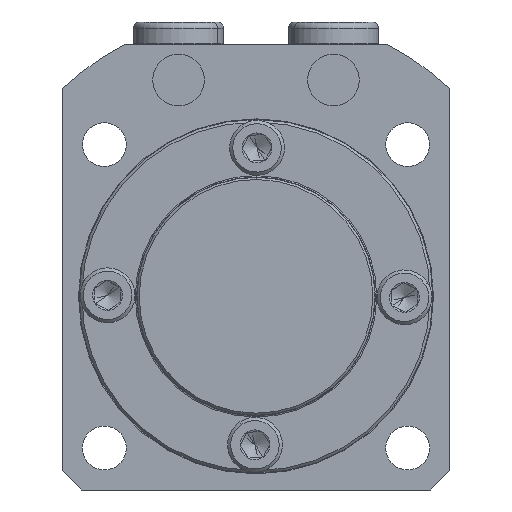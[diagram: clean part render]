
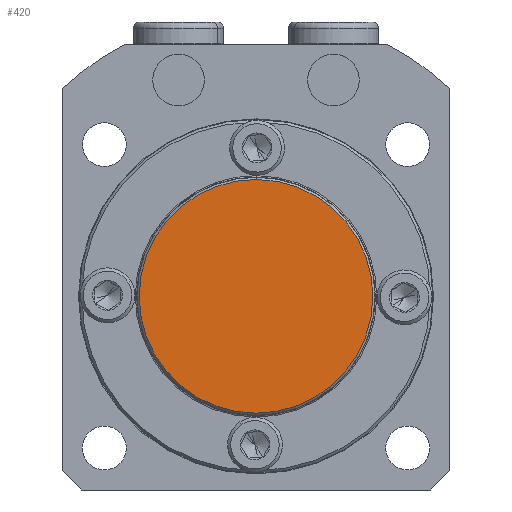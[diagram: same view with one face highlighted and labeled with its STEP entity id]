
A CAD part, front view. The second image highlights one B-rep face of the part: STEP entity #420.
In plain terms, the highlighted planar face has unit normal (0, -1, 0).
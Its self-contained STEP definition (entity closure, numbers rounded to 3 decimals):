
#97 = CIRCLE ( 'NONE', #102, 18.1 ) ;
#102 = AXIS2_PLACEMENT_3D ( 'NONE', #1037, #1038, #1039 ) ;
#127 = CIRCLE ( 'NONE', #131, 18.1 ) ;
#131 = AXIS2_PLACEMENT_3D ( 'NONE', #3993, #3994, #3995 ) ;
#420 = ADVANCED_FACE ( 'NONE', ( #2499 ), #2500, .T. ) ;
#1037 = CARTESIAN_POINT ( 'NONE',  ( 0., -10., 0. ) ) ;
#1038 = DIRECTION ( 'NONE',  ( 0., -1., 0. ) ) ;
#1039 = DIRECTION ( 'NONE',  ( 0., 0., -1. ) ) ;
#1121 = EDGE_CURVE ( 'NONE', #2058, #5191, #97, .T. ) ;
#1140 = EDGE_CURVE ( 'NONE', #5191, #2058, #127, .T. ) ;
#1667 = CARTESIAN_POINT ( 'NONE',  ( 0., -10., -18.1 ) ) ;
#2058 = VERTEX_POINT ( 'NONE', #4086 ) ;
#2337 = EDGE_LOOP ( 'NONE', ( #3168, #3169 ) ) ;
#2491 = CARTESIAN_POINT ( 'NONE',  ( 0., -10., 0. ) ) ;
#2499 = FACE_OUTER_BOUND ( 'NONE', #2337, .T. ) ;
#2500 = PLANE ( 'NONE',  #4756 ) ;
#2503 = DIRECTION ( 'NONE',  ( 0., -1., 0. ) ) ;
#2504 = DIRECTION ( 'NONE',  ( 0., 0., -1. ) ) ;
#3168 = ORIENTED_EDGE ( 'NONE', *, *, #1121, .T. ) ;
#3169 = ORIENTED_EDGE ( 'NONE', *, *, #1140, .T. ) ;
#3993 = CARTESIAN_POINT ( 'NONE',  ( 0., -10., 0. ) ) ;
#3994 = DIRECTION ( 'NONE',  ( 0., -1., 0. ) ) ;
#3995 = DIRECTION ( 'NONE',  ( 0., 0., -1. ) ) ;
#4086 = CARTESIAN_POINT ( 'NONE',  ( 0., -10., 18.1 ) ) ;
#4756 = AXIS2_PLACEMENT_3D ( 'NONE', #2491, #2503, #2504 ) ;
#5191 = VERTEX_POINT ( 'NONE', #1667 ) ;
